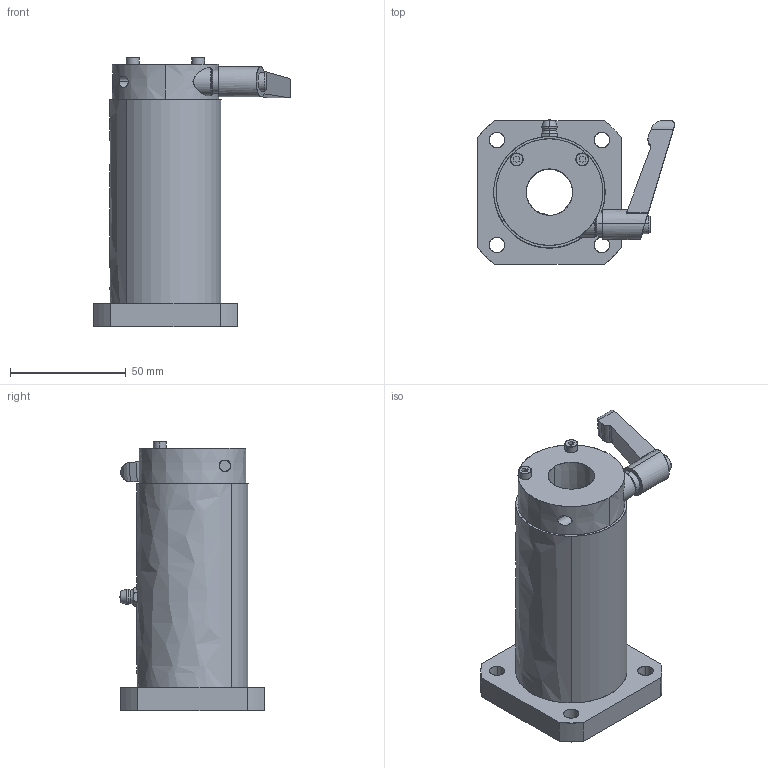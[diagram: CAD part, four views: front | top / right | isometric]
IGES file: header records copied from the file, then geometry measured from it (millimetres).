
Start section: SolidWorks IGES file using analytic representation for surfaces
Global section: file name: C:\Users\yamad\Desktop\IGES\LFWK20-OH-C.IGS; native system: SolidWorks 2019; preprocessor: SolidWorks 2019; author: yamad; date: 230626.171148; units: millimetre
Bounding box: 84.9 x 62.39 x 116 mm (x, y, z)
Surface area: 44505.3 mm2 (no closed solid volume)
Topology: 0 solids, 0 shells, 231 faces, 5403 edges, 5401 vertices
Faces by surface type: bspline 124, revolution 107
